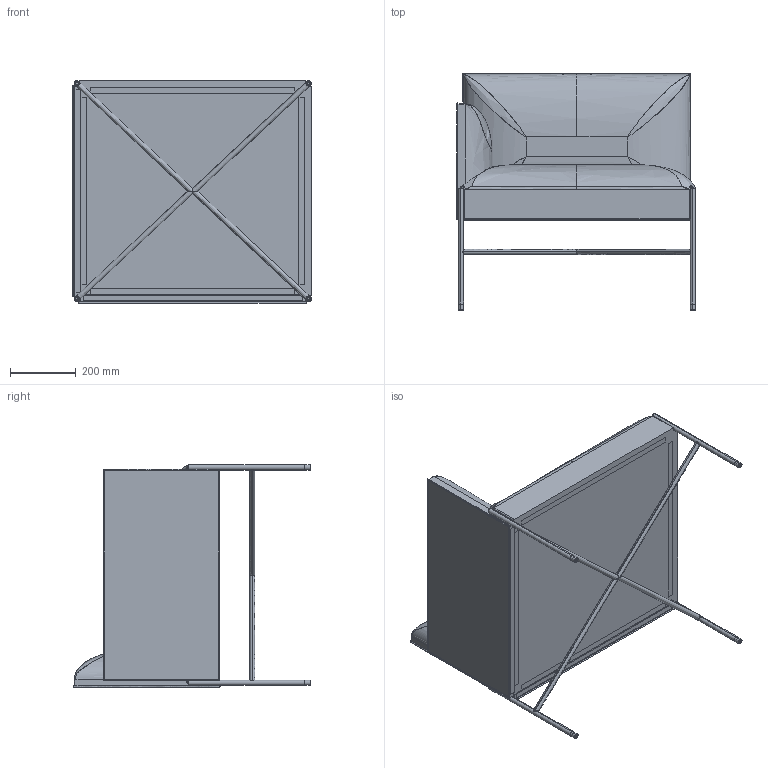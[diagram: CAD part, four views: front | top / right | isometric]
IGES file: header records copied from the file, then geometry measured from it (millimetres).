
Start section: SolidWorks IGES file using analytic representation for surfaces
Global section: file name: W:\design\GORDON GUILLAUMIER\Chill-Out\modelli 3d aggiornati\poltrona Q.IGS; native system: SolidWorks 2010; preprocessor: SolidWorks 2010; author: PC20; date: 140714.193534; units: millimetre
Bounding box: 725 x 719.5 x 675.5 mm (x, y, z)
Surface area: 5736076.4 mm2 (no closed solid volume)
Topology: 0 solids, 0 shells, 547 faces, 13861 edges, 16297 vertices
Faces by surface type: bspline 300, revolution 247
